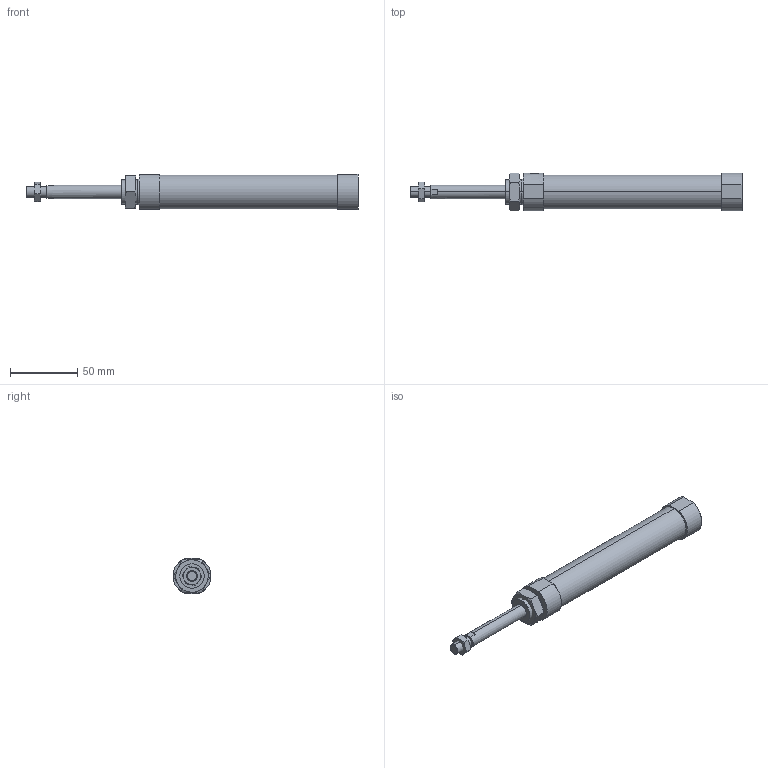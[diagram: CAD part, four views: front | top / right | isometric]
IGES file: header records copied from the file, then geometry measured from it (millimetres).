
Start section: SolidWorks IGES file using analytic representation for surfaces
Global section: file name: C:\Users\Toshiba\Desktop\JGND0-20-50-N.IGS; native system: SolidWorks 2014; preprocessor: SolidWorks 2014; author: Toshiba; date: 160804.100747; units: millimetre
Bounding box: 246 x 28 x 26 mm (x, y, z)
Surface area: 19784.1 mm2 (no closed solid volume)
Topology: 0 solids, 0 shells, 81 faces, 1362 edges, 1362 vertices
Faces by surface type: bspline 57, revolution 24
